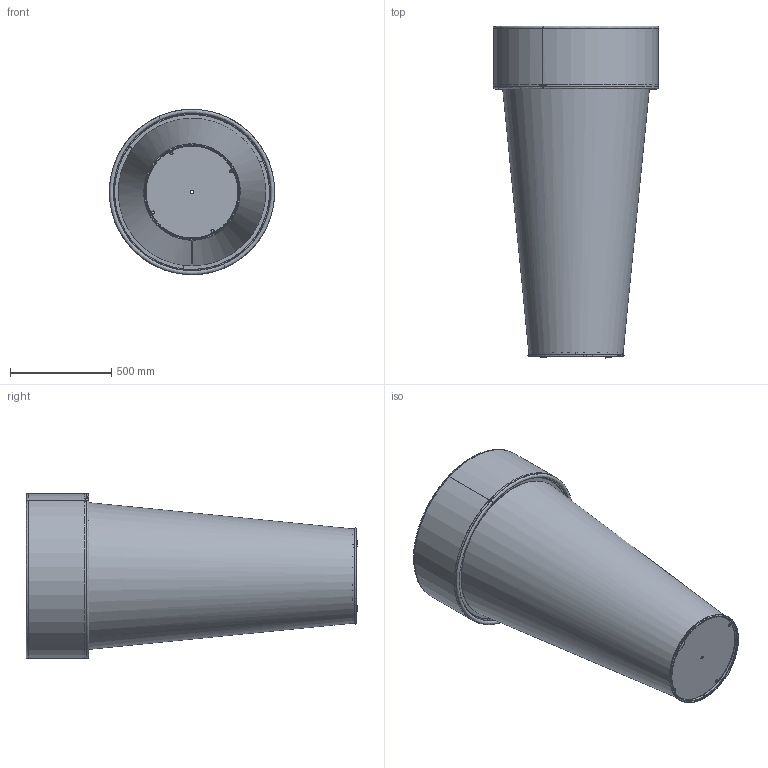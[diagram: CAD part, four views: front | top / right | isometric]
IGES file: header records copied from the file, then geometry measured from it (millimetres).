
Start section: SolidWorks IGES file using analytic representation for surfaces
Global section: file name: C:\VaultDeCastelli\Progetti\DC\PESO LEGGERO PRODOTTI\Ale\DeCastelli-3D-Delta XL 162.igs; native system: SolidWorks 2022; preprocessor: SolidWorks 2022; author: AlessandroP; date: 240802.102819; units: millimetre
Bounding box: 814.86 x 1635.4 x 814.99 mm (x, y, z)
Surface area: 7650949.4 mm2 (no closed solid volume)
Topology: 0 solids, 0 shells, 126 faces, 2455 edges, 2455 vertices
Faces by surface type: revolution 64, bspline 62
